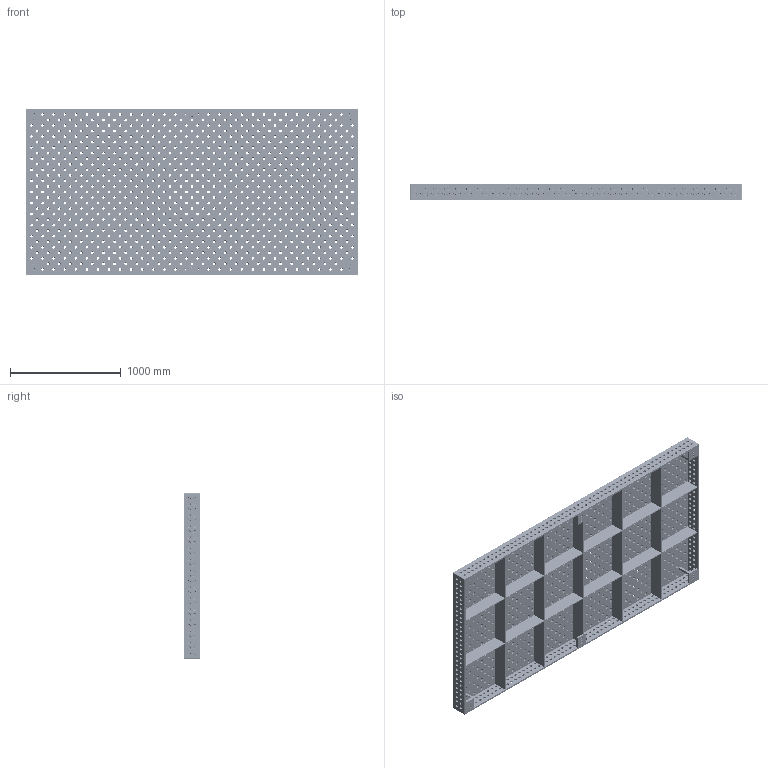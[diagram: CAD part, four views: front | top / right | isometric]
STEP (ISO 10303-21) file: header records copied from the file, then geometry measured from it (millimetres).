
FILE_DESCRIPTION (( 'STEP AP203' ), '1' );
FILE_NAME ('220040.D.STEP', '2020-03-03T07:42:23', ( '' ), ( '' ), 'SwSTEP 2.0', 'SolidWorks 2019', '' );
FILE_SCHEMA (( 'CONFIG_CONTROL_DESIGN' ));
Products named in the file (1): 220040.D
Bounding box: 3000 x 150 x 1500 mm (x, y, z)
Volume: 107850664.7 mm3; surface area: 15355347.1 mm2
Topology: 1 solids, 1 shells, 7533 faces, 17656 edges, 10128 vertices
Faces by surface type: cone 2492, cylinder 2472, torus 2420, plane 141, bspline 8
Entity records: 222571 total; most frequent: DIRECTION 44968, CARTESIAN_POINT 36558, ORIENTED_EDGE 35312, AXIS2_PLACEMENT_3D 19802, EDGE_CURVE 17656, CIRCLE 12276, VERTEX_POINT 10128, EDGE_LOOP 9996
